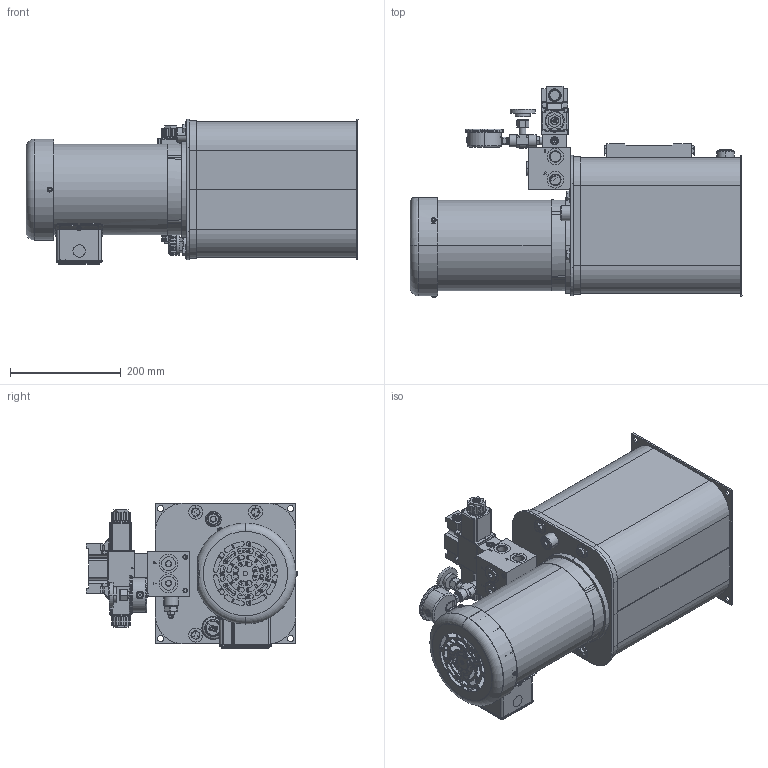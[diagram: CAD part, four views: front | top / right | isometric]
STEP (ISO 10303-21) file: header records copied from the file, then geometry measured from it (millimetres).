
FILE_DESCRIPTION (( 'STEP AP214' ), '1' );
FILE_NAME ('T3V-10-M-P1-XX-059c.STEP', '2021-09-06T15:58:41', ( '' ), ( '' ), 'SwSTEP 2.0', 'SolidWorks 2020', '' );
FILE_SCHEMA (( 'AUTOMOTIVE_DESIGN' ));
Length unit declared in the file: inch
Products named in the file (1): T3V-10-M-P1-XX-059c
Bounding box: 599.94 x 382.69 x 262.78 mm (x, y, z)
Surface area: 1002760.2 mm2 (no closed solid volume)
Topology: 0 solids, 131 shells, 1842 faces, 8179 edges, 6265 vertices
Faces by surface type: plane 698, cylinder 647, cone 185, bspline 181, torus 97, sphere 34
Entity records: 143072 total; most frequent: CARTESIAN_POINT 56795, DIRECTION 12149, ORIENTED_EDGE 11715, EDGE_CURVE 8156, VERTEX_POINT 6265, AXIS2_PLACEMENT_3D 4057, LINE 4035, VECTOR 4035
